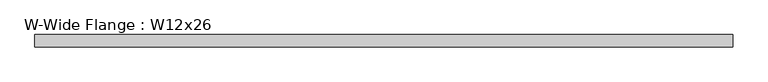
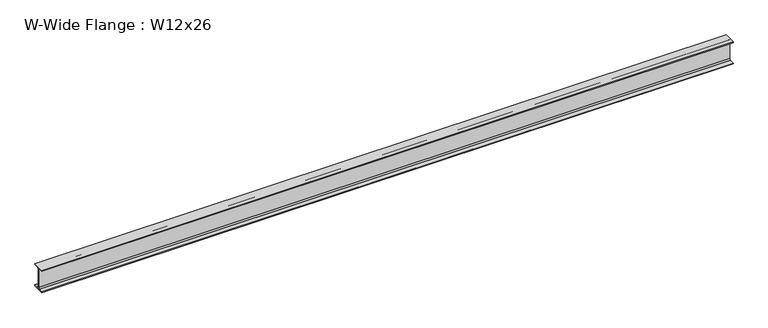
"""IFC4 building model written with IfcOpenShell, lengths in millimetres: beam geometry, W-Wide Flange : W12x26."""

from ifc_helpers import new_model, si_unit, point, frame, frame_2d, origin, place, context, project, spatial, polyline, circle_curve, trimmed, segment, composite_curve, outline, extrude, source, transform, mapped, element, save


def w_wide_flange_w12x26_1a46e80d(model_context):
    return source(origin(), model_context, "Body", "SweptSolid", [
        extrude(outline(composite_curve([segment(polyline([(82.423, -145.288), (82.423, -154.94), (-82.423, -154.94), (-82.423, -145.288), (-20.2565, -145.288)]), True, "CONTINUOUS"), segment(trimmed(circle_curve(frame_2d((-20.2565, -127.9525)), 17.3355), [point((-20.2565, -145.288))], [point((-2.921, -127.9525))], True, "CARTESIAN"), True, "CONTINUOUS"), segment(polyline([(-2.921, -127.9525), (-2.921, 127.9525)]), True, "CONTINUOUS"), segment(trimmed(circle_curve(frame_2d((-20.2565, 127.9525)), 17.3355), [point((-2.921, 127.9525))], [point((-20.2565, 145.288))], True, "CARTESIAN"), True, "CONTINUOUS"), segment(polyline([(-20.2565, 145.288), (-82.423, 145.288), (-82.423, 154.94), (82.423, 154.94), (82.423, 145.288), (20.2565, 145.288)]), True, "CONTINUOUS"), segment(trimmed(circle_curve(frame_2d((20.2565, 127.9525)), 17.3355), [point((20.2565, 145.288))], [point((2.921, 127.9525))], True, "CARTESIAN"), True, "CONTINUOUS"), segment(polyline([(2.921, 127.9525), (2.921, -127.9525)]), True, "CONTINUOUS"), segment(trimmed(circle_curve(frame_2d((20.2565, -127.9525)), 17.3355), [point((2.921, -127.9525))], [point((20.2565, -145.288))], True, "CARTESIAN"), True, "CONTINUOUS"), segment(polyline([(20.2565, -145.288), (82.423, -145.288)]), True, "CONTINUOUS")], self_intersect=False)), frame((-4637.913, 0.0, 0.0), z_axis=(1.0, 0.0, 0.0), x_axis=(0.0, 1.0, 0.0)), (0.0, 0.0, 1.0), 9275.826),
    ])


if __name__ == "__main__":
    model = new_model("IFC4")
    model_context = context("Model", 3, world=origin())
    ifc_project = project(units=[si_unit("LENGTHUNIT", "METRE", prefix="MILLI")], contexts=[model_context])
    site = spatial("IfcSite", under=ifc_project)
    building = spatial("IfcBuilding", under=site)
    placement = place(None, origin())
    w_wide_flange_w12x26_shape = w_wide_flange_w12x26_1a46e80d(model_context)
    element("IfcBeam", 1, ObjectType="W-Wide Flange : W12x26", at=placement, inside=building, context=model_context, shape_type="MappedRepresentation", body=[
        mapped(w_wide_flange_w12x26_shape, transform((0.0, 0.0, 0.0), x_axis=(1.0, 0.0, 0.0), y_axis=(0.0, 1.0, 0.0), z_axis=(0.0, 0.0, 1.0))),
    ])
    save(model, "model.ifc")
